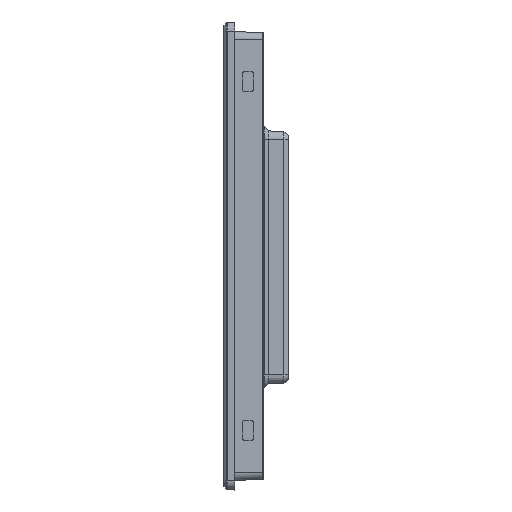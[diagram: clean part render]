
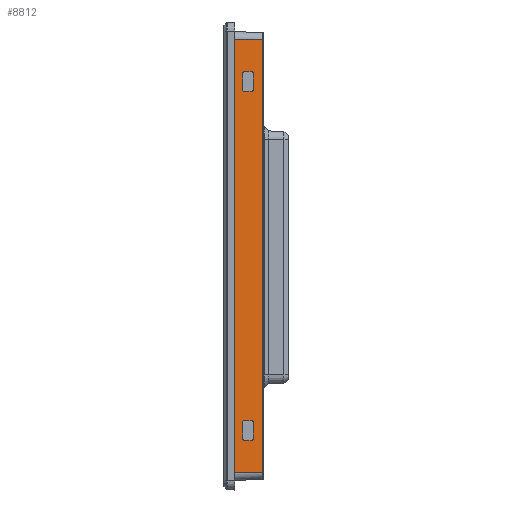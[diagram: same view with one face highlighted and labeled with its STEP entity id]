
A CAD part, left-side view. The second image highlights one B-rep face of the part: STEP entity #8812.
In plain terms, the highlighted planar face has unit normal (-0.999, -0.035, 0).
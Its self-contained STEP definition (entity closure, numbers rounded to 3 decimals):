
#2127=DIRECTION('',(0.,0.,1.));
#2128=VECTOR('',#2127,233.536);
#2129=CARTESIAN_POINT('',(-195.765,-13.507,
-116.768));
#2130=LINE('',#2129,#2128);
#2369=DIRECTION('',(-0.035,0.999,-0.035));
#2370=VECTOR('',#2369,17.846);
#2371=CARTESIAN_POINT('',(-195.765,-13.507,
-116.768));
#2372=LINE('',#2371,#2370);
#2373=DIRECTION('',(0.035,-0.999,-0.035));
#2374=VECTOR('',#2373,17.846);
#2375=CARTESIAN_POINT('',(-196.388,4.317,117.39));
#2376=LINE('',#2375,#2374);
#2377=DIRECTION('',(0.,0.,1.));
#2378=VECTOR('',#2377,9.63);
#2379=CARTESIAN_POINT('',(-195.951,-8.2,-99.065));
#2380=LINE('',#2379,#2378);
#2381=CARTESIAN_POINT('',(-195.951,-8.2,-89.435));
#2382=CARTESIAN_POINT('',(-195.951,-8.2,-89.268));
#2383=CARTESIAN_POINT('',(-195.955,-8.074,
-89.061));
#2384=CARTESIAN_POINT('',(-195.962,-7.867,-88.935));
#2385=CARTESIAN_POINT('',(-195.968,-7.7,-88.935));
#2387=CARTESIAN_POINT('',(-196.125,-3.2,-88.935));
#2388=CARTESIAN_POINT('',(-196.131,-3.033,-88.935));
#2389=CARTESIAN_POINT('',(-196.138,-2.826,
-89.061));
#2390=CARTESIAN_POINT('',(-196.143,-2.7,-89.268));
#2391=CARTESIAN_POINT('',(-196.143,-2.7,-89.435));
#2393=DIRECTION('',(0.,0.,-1.));
#2394=VECTOR('',#2393,9.63);
#2395=CARTESIAN_POINT('',(-196.143,-2.7,-89.435));
#2396=LINE('',#2395,#2394);
#2397=CARTESIAN_POINT('',(-196.143,-2.7,-99.065));
#2398=CARTESIAN_POINT('',(-196.143,-2.7,-99.232));
#2399=CARTESIAN_POINT('',(-196.138,-2.826,
-99.439));
#2400=CARTESIAN_POINT('',(-196.131,-3.033,-99.565));
#2401=CARTESIAN_POINT('',(-196.125,-3.2,-99.565));
#2403=CARTESIAN_POINT('',(-195.968,-7.7,-99.565));
#2404=CARTESIAN_POINT('',(-195.962,-7.867,-99.565));
#2405=CARTESIAN_POINT('',(-195.955,-8.074,
-99.439));
#2406=CARTESIAN_POINT('',(-195.951,-8.2,-99.232));
#2407=CARTESIAN_POINT('',(-195.951,-8.2,-99.065));
#2409=CARTESIAN_POINT('',(-196.125,-3.2,99.565));
#2410=CARTESIAN_POINT('',(-196.131,-3.033,99.565));
#2411=CARTESIAN_POINT('',(-196.138,-2.826,
99.439));
#2412=CARTESIAN_POINT('',(-196.143,-2.7,99.232));
#2413=CARTESIAN_POINT('',(-196.143,-2.7,99.065));
#2415=DIRECTION('',(0.,0.,-1.));
#2416=VECTOR('',#2415,9.63);
#2417=CARTESIAN_POINT('',(-196.143,-2.7,99.065));
#2418=LINE('',#2417,#2416);
#2419=CARTESIAN_POINT('',(-196.143,-2.7,89.435));
#2420=CARTESIAN_POINT('',(-196.143,-2.7,89.268));
#2421=CARTESIAN_POINT('',(-196.138,-2.826,
89.061));
#2422=CARTESIAN_POINT('',(-196.131,-3.033,88.935));
#2423=CARTESIAN_POINT('',(-196.125,-3.2,88.935));
#2425=CARTESIAN_POINT('',(-195.968,-7.7,88.935));
#2426=CARTESIAN_POINT('',(-195.962,-7.867,88.935));
#2427=CARTESIAN_POINT('',(-195.955,-8.074,
89.061));
#2428=CARTESIAN_POINT('',(-195.951,-8.2,89.268));
#2429=CARTESIAN_POINT('',(-195.951,-8.2,89.435));
#2431=DIRECTION('',(0.,0.,1.));
#2432=VECTOR('',#2431,9.63);
#2433=CARTESIAN_POINT('',(-195.951,-8.2,89.435));
#2434=LINE('',#2433,#2432);
#2435=CARTESIAN_POINT('',(-195.951,-8.2,99.065));
#2436=CARTESIAN_POINT('',(-195.951,-8.2,99.232));
#2437=CARTESIAN_POINT('',(-195.955,-8.074,
99.439));
#2438=CARTESIAN_POINT('',(-195.962,-7.867,99.565));
#2439=CARTESIAN_POINT('',(-195.968,-7.7,99.565));
#3216=DIRECTION('',(0.,0.,-1.));
#3217=VECTOR('',#3216,234.781);
#3218=CARTESIAN_POINT('',(-196.388,4.317,117.39));
#3219=LINE('',#3218,#3217);
#3427=DIRECTION('',(-0.035,0.999,0.));
#3428=VECTOR('',#3427,4.503);
#3429=CARTESIAN_POINT('',(-195.968,-7.7,-99.565));
#3430=LINE('',#3429,#3428);
#3447=DIRECTION('',(0.035,-0.999,0.));
#3448=VECTOR('',#3447,4.503);
#3449=CARTESIAN_POINT('',(-196.125,-3.2,-88.935));
#3450=LINE('',#3449,#3448);
#3543=DIRECTION('',(0.035,-0.999,0.));
#3544=VECTOR('',#3543,4.503);
#3545=CARTESIAN_POINT('',(-196.125,-3.2,99.565));
#3546=LINE('',#3545,#3544);
#3563=DIRECTION('',(-0.035,0.999,0.));
#3564=VECTOR('',#3563,4.503);
#3565=CARTESIAN_POINT('',(-195.968,-7.7,88.935));
#3566=LINE('',#3565,#3564);
#4295=CARTESIAN_POINT('',(-195.765,-13.507,
116.768));
#4296=VERTEX_POINT('',#4295);
#4299=CARTESIAN_POINT('',(-195.765,-13.507,
-116.768));
#4300=VERTEX_POINT('',#4299);
#4370=CARTESIAN_POINT('',(-196.388,4.317,117.39));
#4371=VERTEX_POINT('',#4370);
#4372=CARTESIAN_POINT('',(-196.388,4.317,
-117.39));
#4373=VERTEX_POINT('',#4372);
#4374=CARTESIAN_POINT('',(-195.951,-8.2,-99.065));
#4375=CARTESIAN_POINT('',(-195.951,-8.2,-89.435));
#4376=VERTEX_POINT('',#4374);
#4377=VERTEX_POINT('',#4375);
#4378=VERTEX_POINT('',#2385);
#4379=CARTESIAN_POINT('',(-196.125,-3.2,-88.935));
#4380=VERTEX_POINT('',#4379);
#4381=VERTEX_POINT('',#2391);
#4382=CARTESIAN_POINT('',(-196.143,-2.7,-99.065));
#4383=VERTEX_POINT('',#4382);
#4384=VERTEX_POINT('',#2401);
#4385=CARTESIAN_POINT('',(-195.968,-7.7,-99.565));
#4386=VERTEX_POINT('',#4385);
#4387=CARTESIAN_POINT('',(-196.125,-3.2,99.565));
#4388=CARTESIAN_POINT('',(-195.968,-7.7,99.565));
#4389=VERTEX_POINT('',#4387);
#4390=VERTEX_POINT('',#4388);
#4391=VERTEX_POINT('',#2413);
#4392=CARTESIAN_POINT('',(-196.143,-2.7,89.435));
#4393=VERTEX_POINT('',#4392);
#4394=VERTEX_POINT('',#2423);
#4395=CARTESIAN_POINT('',(-195.968,-7.7,88.935));
#4396=VERTEX_POINT('',#4395);
#4397=VERTEX_POINT('',#2429);
#4398=CARTESIAN_POINT('',(-195.951,-8.2,99.065));
#4399=VERTEX_POINT('',#4398);
#8763=CARTESIAN_POINT('',(-196.3,1.8,-127.489));
#8764=DIRECTION('',(0.999,0.035,0.));
#8765=DIRECTION('',(0.,0.,1.));
#8766=AXIS2_PLACEMENT_3D('',#8763,#8764,#8765);
#8767=PLANE('',#8766);
#8768=ORIENTED_EDGE('',*,*,#8559,.F.);
#8770=ORIENTED_EDGE('',*,*,#8769,.T.);
#8772=ORIENTED_EDGE('',*,*,#8771,.F.);
#8773=ORIENTED_EDGE('',*,*,#8755,.T.);
#8774=EDGE_LOOP('',(#8768,#8770,#8772,#8773));
#8775=FACE_OUTER_BOUND('',#8774,.F.);
#8777=ORIENTED_EDGE('',*,*,#8776,.T.);
#8779=ORIENTED_EDGE('',*,*,#8778,.T.);
#8781=ORIENTED_EDGE('',*,*,#8780,.F.);
#8783=ORIENTED_EDGE('',*,*,#8782,.T.);
#8785=ORIENTED_EDGE('',*,*,#8784,.T.);
#8787=ORIENTED_EDGE('',*,*,#8786,.T.);
#8789=ORIENTED_EDGE('',*,*,#8788,.F.);
#8791=ORIENTED_EDGE('',*,*,#8790,.T.);
#8792=EDGE_LOOP('',(#8777,#8779,#8781,#8783,#8785,#8787,#8789,#8791));
#8793=FACE_BOUND('',#8792,.F.);
#8795=ORIENTED_EDGE('',*,*,#8794,.F.);
#8797=ORIENTED_EDGE('',*,*,#8796,.T.);
#8799=ORIENTED_EDGE('',*,*,#8798,.T.);
#8801=ORIENTED_EDGE('',*,*,#8800,.T.);
#8803=ORIENTED_EDGE('',*,*,#8802,.F.);
#8805=ORIENTED_EDGE('',*,*,#8804,.T.);
#8807=ORIENTED_EDGE('',*,*,#8806,.T.);
#8809=ORIENTED_EDGE('',*,*,#8808,.T.);
#8810=EDGE_LOOP('',(#8795,#8797,#8799,#8801,#8803,#8805,#8807,#8809));
#8811=FACE_BOUND('',#8810,.F.);
#8812=ADVANCED_FACE('',(#8775,#8793,#8811),#8767,.F.);
#2386=B_SPLINE_CURVE_WITH_KNOTS('',3,(#2381,#2382,#2383,#2384,#2385),
.UNSPECIFIED.,.F.,.F.,(4,1,4),(0.,0.5,1.),.UNSPECIFIED.);
#2392=B_SPLINE_CURVE_WITH_KNOTS('',3,(#2387,#2388,#2389,#2390,#2391),
.UNSPECIFIED.,.F.,.F.,(4,1,4),(0.,0.5,1.),.UNSPECIFIED.);
#2402=B_SPLINE_CURVE_WITH_KNOTS('',3,(#2397,#2398,#2399,#2400,#2401),
.UNSPECIFIED.,.F.,.F.,(4,1,4),(0.,0.5,1.),.UNSPECIFIED.);
#2408=B_SPLINE_CURVE_WITH_KNOTS('',3,(#2403,#2404,#2405,#2406,#2407),
.UNSPECIFIED.,.F.,.F.,(4,1,4),(0.,0.5,1.),.UNSPECIFIED.);
#2414=B_SPLINE_CURVE_WITH_KNOTS('',3,(#2409,#2410,#2411,#2412,#2413),
.UNSPECIFIED.,.F.,.F.,(4,1,4),(0.,0.5,1.),.UNSPECIFIED.);
#2424=B_SPLINE_CURVE_WITH_KNOTS('',3,(#2419,#2420,#2421,#2422,#2423),
.UNSPECIFIED.,.F.,.F.,(4,1,4),(0.,0.5,1.),.UNSPECIFIED.);
#2430=B_SPLINE_CURVE_WITH_KNOTS('',3,(#2425,#2426,#2427,#2428,#2429),
.UNSPECIFIED.,.F.,.F.,(4,1,4),(0.,0.5,1.),.UNSPECIFIED.);
#2440=B_SPLINE_CURVE_WITH_KNOTS('',3,(#2435,#2436,#2437,#2438,#2439),
.UNSPECIFIED.,.F.,.F.,(4,1,4),(0.,0.5,1.),.UNSPECIFIED.);
#8559=EDGE_CURVE('',#4300,#4296,#2130,.T.);
#8755=EDGE_CURVE('',#4371,#4296,#2376,.T.);
#8769=EDGE_CURVE('',#4300,#4373,#2372,.T.);
#8771=EDGE_CURVE('',#4371,#4373,#3219,.T.);
#8776=EDGE_CURVE('',#4376,#4377,#2380,.T.);
#8778=EDGE_CURVE('',#4377,#4378,#2386,.T.);
#8780=EDGE_CURVE('',#4380,#4378,#3450,.T.);
#8782=EDGE_CURVE('',#4380,#4381,#2392,.T.);
#8784=EDGE_CURVE('',#4381,#4383,#2396,.T.);
#8786=EDGE_CURVE('',#4383,#4384,#2402,.T.);
#8788=EDGE_CURVE('',#4386,#4384,#3430,.T.);
#8790=EDGE_CURVE('',#4386,#4376,#2408,.T.);
#8794=EDGE_CURVE('',#4389,#4390,#3546,.T.);
#8796=EDGE_CURVE('',#4389,#4391,#2414,.T.);
#8798=EDGE_CURVE('',#4391,#4393,#2418,.T.);
#8800=EDGE_CURVE('',#4393,#4394,#2424,.T.);
#8802=EDGE_CURVE('',#4396,#4394,#3566,.T.);
#8804=EDGE_CURVE('',#4396,#4397,#2430,.T.);
#8806=EDGE_CURVE('',#4397,#4399,#2434,.T.);
#8808=EDGE_CURVE('',#4399,#4390,#2440,.T.);
